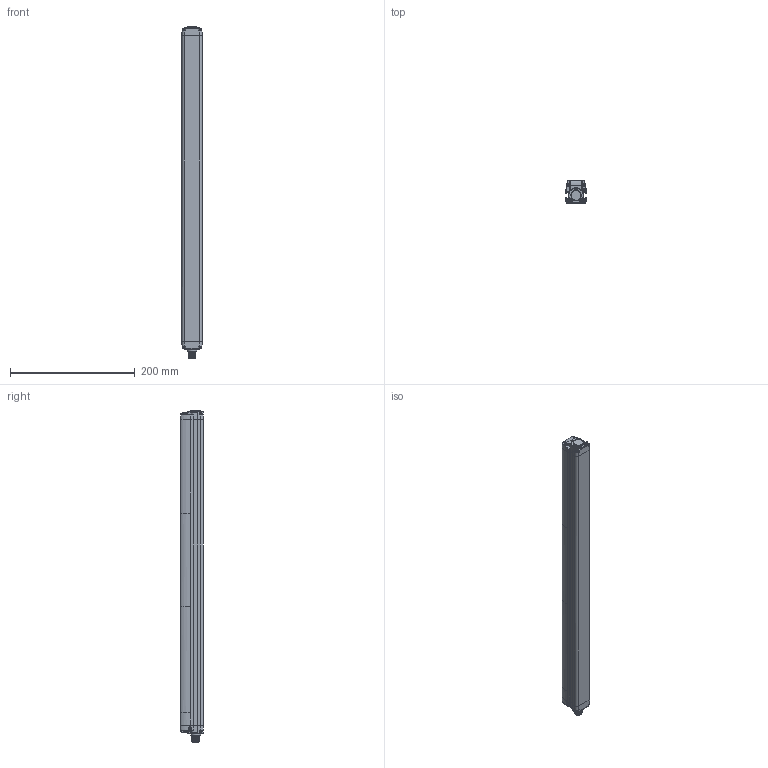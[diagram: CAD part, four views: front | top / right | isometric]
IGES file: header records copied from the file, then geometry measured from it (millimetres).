
Global section: file name: D:\Studi\DSD-0147.igs; preprocessor: I-DEAS 3D IGES Translator 11; date: 20080609.115051; units: millimetre
Bounding box: 32.3 x 36.9 x 533.34 mm (x, y, z)
Volume: 507898.6 mm3; surface area: 127600.9 mm2
Topology: 12 solids, 12 shells, 1614 faces, 6313 edges, 5168 vertices
Faces by surface type: bspline 1614
